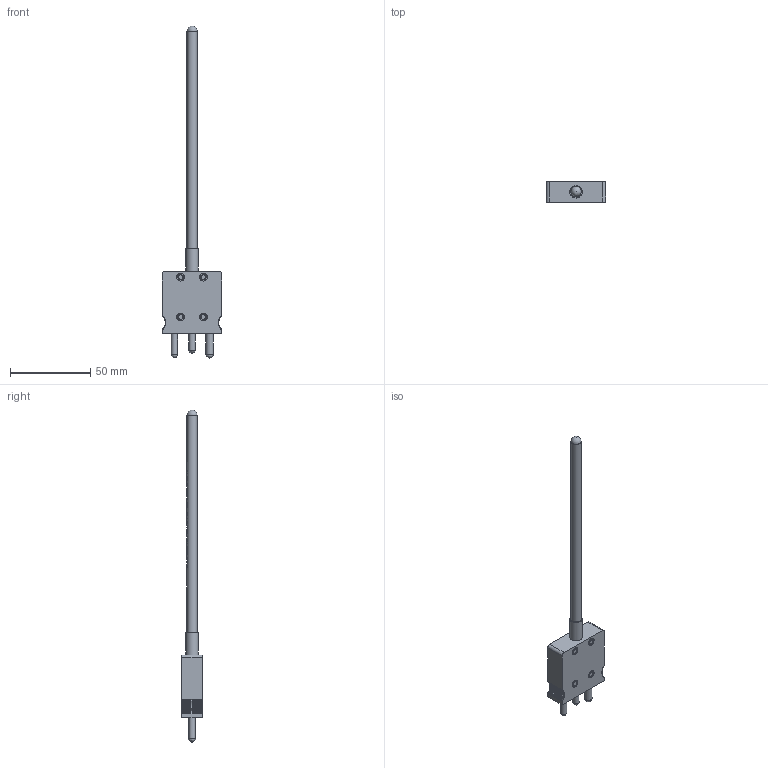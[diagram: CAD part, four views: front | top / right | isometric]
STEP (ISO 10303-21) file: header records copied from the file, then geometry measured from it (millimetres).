
FILE_DESCRIPTION(/* description */ (''),/* implementation_level */ '2;1');
FILE_NAME(/* name */ 'P:\3D Drawings\Thermocouples and RTDs\Stem Assemblies\Male-Plug-RTD\Male-Plug-RTD-STP.stp',/* time_stamp */ '2016-01-14T11:22:02-08:00',/* author */ ('charles'),/* organization */ (''),/* preprocessor_version */ 'ST-DEVELOPER v15.2',/* originating_system */ 'Autodesk Inventor 2014',/* authorisation */ '');
FILE_SCHEMA (('AUTOMOTIVE_DESIGN { 1 0 10303 214 3 1 1 }'));
Products named in the file (1): Male-Plug-RTD
Bounding box: 37.08 x 12.8 x 206.48 mm (x, y, z)
Volume: 23333.8 mm3; surface area: 8553.2 mm2
Topology: 1 solids, 1 shells, 473 faces, 1235 edges, 820 vertices
Faces by surface type: plane 223, cylinder 130, bspline 119, sphere 1
Full cylindrical faces by diameter (mm): 2.918 x4, 3.27 x4, 3.81 x1, 3.937 x1, 4.699 x6, 4.826 x8, 6.35 x1, 7.62 x1
Entity records: 40088 total; most frequent: CARTESIAN_POINT 28793, ORIENTED_EDGE 2416, DIRECTION 1849, EDGE_CURVE 1208, VERTEX_POINT 819, AXIS2_PLACEMENT_3D 643, LINE 563, VECTOR 563
